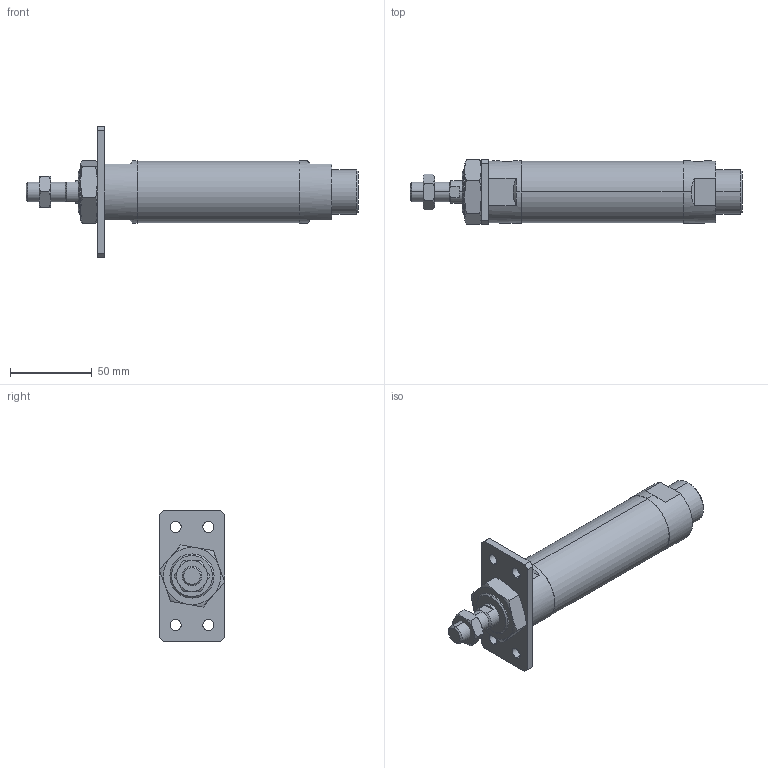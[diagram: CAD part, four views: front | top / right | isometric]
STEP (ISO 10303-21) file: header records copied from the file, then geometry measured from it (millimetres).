
FILE_DESCRIPTION (( 'STEP AP203' ), '1' );
FILE_NAME ('J#2-32-50-A.STEP', '2016-03-08T07:32:03', ( '' ), ( '' ), 'SwSTEP 2.0', 'SolidWorks 2014', '' );
FILE_SCHEMA (( 'CONFIG_CONTROL_DESIGN' ));
Length unit declared in the file: millimetre
Products named in the file (5): J#2-32-50; J#2-32-50-A; J#2-32-A
Assembly tree (4 placements, depth 2):
  J#2-32-50-A
    J#2-32-50
    (unnamed)
    (unnamed)
    J#2-32-A
Bounding box: 203 x 40 x 80 mm (x, y, z)
Volume: 191532.6 mm3; surface area: 34687.6 mm2
Topology: 4 solids, 4 shells, 114 faces, 264 edges, 161 vertices
Faces by surface type: plane 43, cylinder 32, torus 24, cone 15
Entity records: 4214 total; most frequent: CARTESIAN_POINT 1149, DIRECTION 537, ORIENTED_EDGE 520, EDGE_CURVE 260, AXIS2_PLACEMENT_3D 219, VERTEX_POINT 161, EDGE_LOOP 135, FACE_OUTER_BOUND 114
